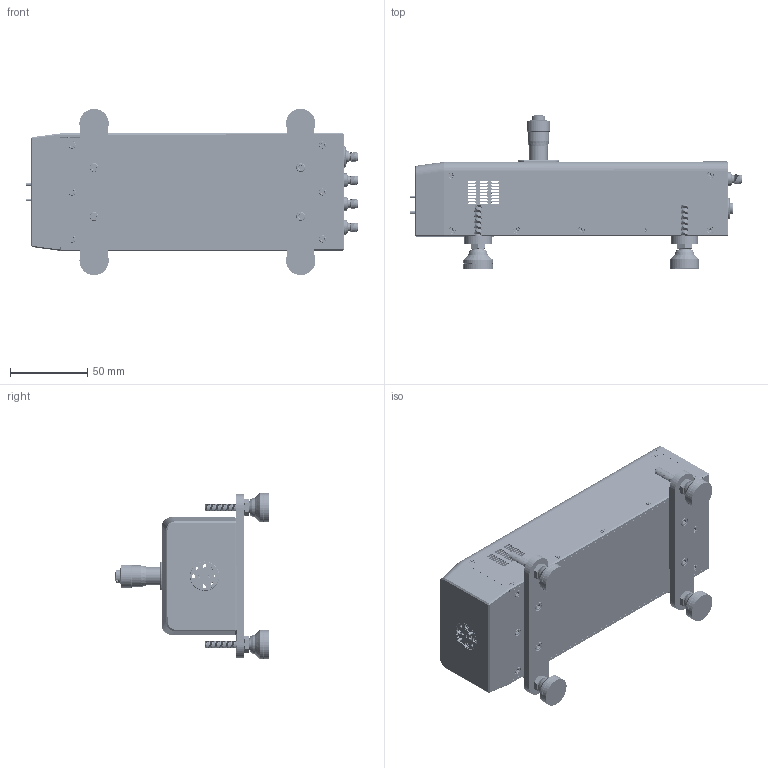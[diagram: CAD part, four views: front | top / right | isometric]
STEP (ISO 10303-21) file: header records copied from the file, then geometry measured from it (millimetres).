
FILE_DESCRIPTION (( 'STEP AP214' ), '1' );
FILE_NAME ('TO-SW-A-M-2, Defeatured.STEP', '2025-06-16T16:42:25', ( '' ), ( '' ), 'SwSTEP 2.0', 'SolidWorks 2021', '' );
FILE_SCHEMA (( 'AUTOMOTIVE_DESIGN' ));
Length unit declared in the file: inch
Products named in the file (1): TO-SW-A-M-2, Defeatured
Bounding box: 215.51 x 99.73 x 108.03 mm (x, y, z)
Volume: 236315 mm3; surface area: 158532.5 mm2
Topology: 110 solids, 110 shells, 5186 faces, 13740 edges, 8803 vertices
Faces by surface type: cylinder 2466, plane 1267, cone 819, bspline 585, sphere 37, torus 12
Entity records: 519583 total; most frequent: CARTESIAN_POINT 337887, ORIENTED_EDGE 27218, DIRECTION 19732, EDGE_CURVE 13609, VERTEX_POINT 8773, AXIS2_PLACEMENT_3D 7345, EDGE_LOOP 5616, UNCERTAINTY_MEASURE_WITH_UNIT 5245
